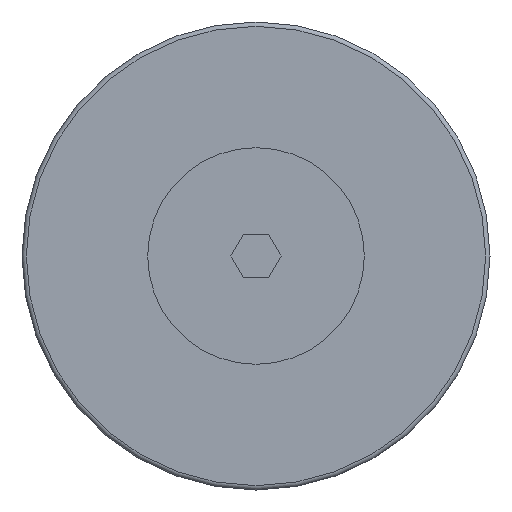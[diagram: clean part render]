
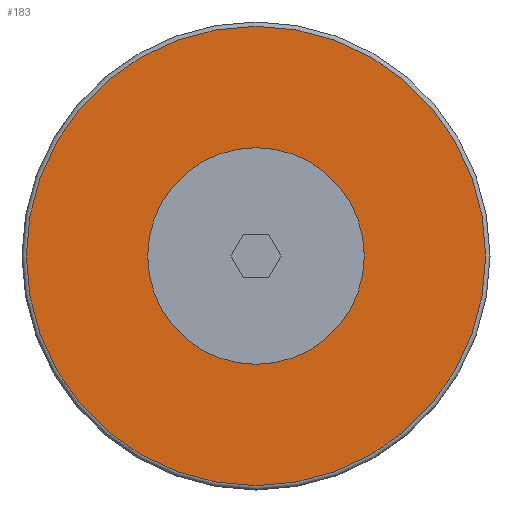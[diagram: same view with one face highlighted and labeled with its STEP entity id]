
A CAD part, front view. The second image highlights one B-rep face of the part: STEP entity #183.
In plain terms, the highlighted planar face has unit normal (0, -1, 0).
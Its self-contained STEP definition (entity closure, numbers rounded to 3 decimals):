
#183=ADVANCED_FACE('',(#261,#262),#263,.F.);
#261=FACE_BOUND('',#400,.T.);
#262=FACE_OUTER_BOUND('',#401,.T.);
#263=PLANE('',#402);
#400=EDGE_LOOP('',(#591));
#401=EDGE_LOOP('',(#592));
#402=AXIS2_PLACEMENT_3D('',#593,#594,#595);
#591=ORIENTED_EDGE('',*,*,#937,.F.);
#592=ORIENTED_EDGE('',*,*,#947,.T.);
#593=CARTESIAN_POINT('',(-28.75,-33.,0.));
#594=DIRECTION('',(0.0,1.0,0.0));
#595=DIRECTION('',(0.0,0.0,1.0));
#937=EDGE_CURVE('',#1072,#1072,#1073,.T.);
#947=EDGE_CURVE('',#1088,#1088,#1089,.T.);
#1072=VERTEX_POINT('',#1281);
#1073=CIRCLE('',#1282,12.5);
#1088=VERTEX_POINT('',#1306);
#1089=CIRCLE('',#1307,26.5);
#1281=CARTESIAN_POINT('',(-2.25,-33.,-12.5));
#1282=AXIS2_PLACEMENT_3D('',#1645,#1646,#1647);
#1306=CARTESIAN_POINT('',(-2.25,-33.,-26.5));
#1307=AXIS2_PLACEMENT_3D('',#1657,#1658,#1659);
#1645=CARTESIAN_POINT('',(-2.25,-33.,0.));
#1646=DIRECTION('',(0.0,-1.0,0.0));
#1647=DIRECTION('',(0.0,0.0,-1.0));
#1657=CARTESIAN_POINT('',(-2.25,-33.,0.));
#1658=DIRECTION('',(0.0,-1.0,0.0));
#1659=DIRECTION('',(0.0,0.0,-1.0));
